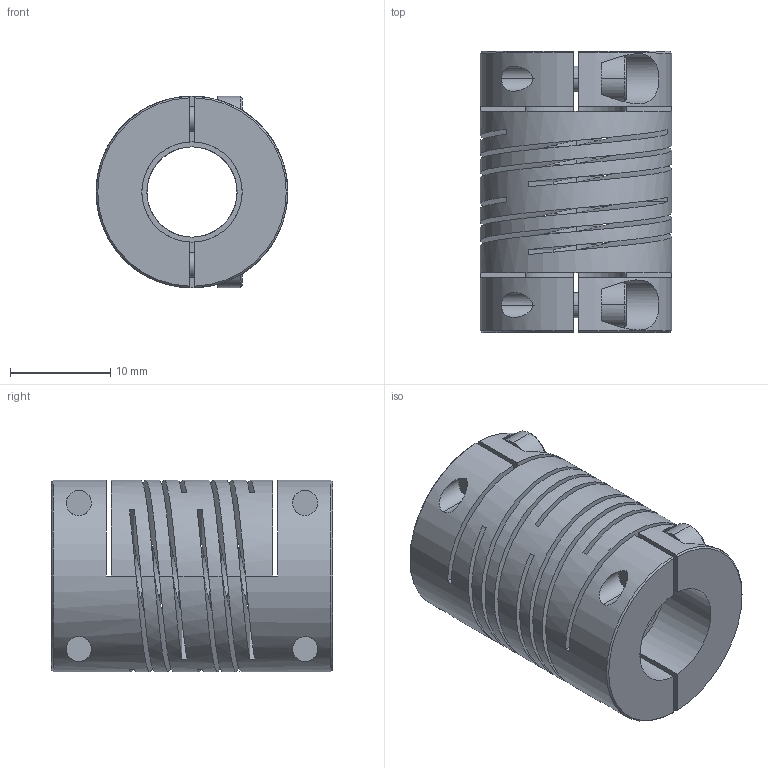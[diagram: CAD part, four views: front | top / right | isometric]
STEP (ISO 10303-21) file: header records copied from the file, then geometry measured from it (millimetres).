
FILE_DESCRIPTION((''),'2;1');
FILE_NAME('703_19','2006-12-06T',('Gary Melling'),(''),'PRO/ENGINEER BY PARAMETRIC TECHNOLOGY CORPORATION, 2006240','PRO/ENGINEER BY PARAMETRIC TECHNOLOGY CORPORATION, 2006240','');
FILE_SCHEMA(('CONFIG_CONTROL_DESIGN'));
Length unit declared in the file: millimetre
Products named in the file (1): 703_19
Bounding box: 19.1 x 28 x 19.1 mm (x, y, z)
Volume: 5099.1 mm3; surface area: 6197 mm2
Topology: 1 solids, 1 shells, 154 faces, 428 edges, 276 vertices
Faces by surface type: plane 82, cylinder 48, bspline 12, cone 12
Entity records: 6968 total; most frequent: CARTESIAN_POINT 3072, ORIENTED_EDGE 856, DIRECTION 720, EDGE_CURVE 428, VERTEX_POINT 276, VECTOR 244, LINE 244, AXIS2_PLACEMENT_3D 238
